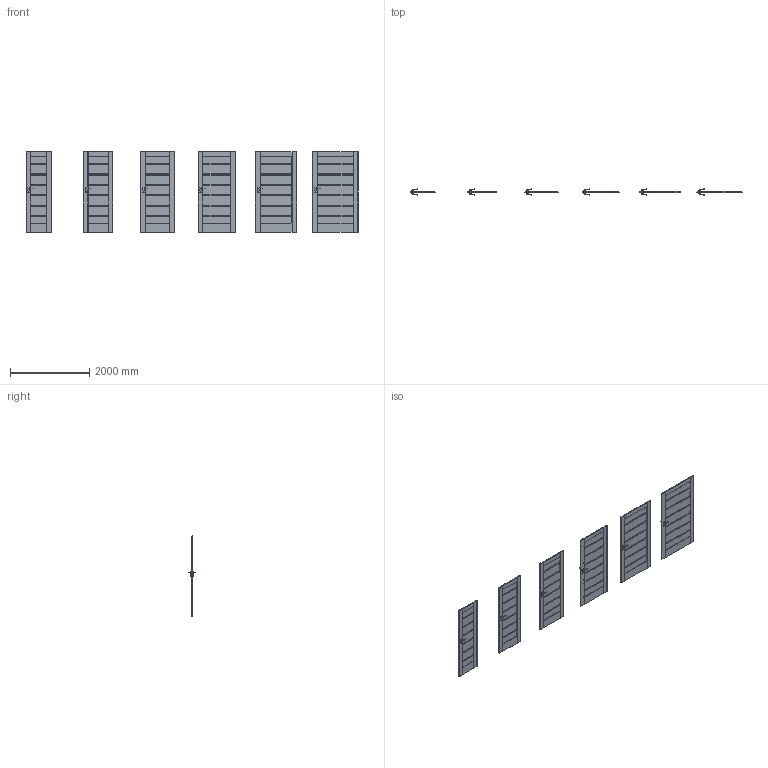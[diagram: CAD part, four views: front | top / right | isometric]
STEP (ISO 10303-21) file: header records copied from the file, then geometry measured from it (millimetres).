
FILE_DESCRIPTION(/* description */ (''),/* implementation_level */ '2;1');
FILE_NAME(/* name */ '049772_A_2-Skrzydło Verte Home model J_ polska norma _PN__ przylgowe..stp',/* time_stamp */ '2024-03-13T10:01:43+01:00',/* author */ (''),/* organization */ (''),/* preprocessor_version */ 'ST-DEVELOPER v16',/* originating_system */ 'SIEMENS PLM Software NX 11.0',/* authorisation */ '');
FILE_SCHEMA (('AUTOMOTIVE_DESIGN { 1 0 10303 214 3 1 1 1 }'));
Products named in the file (1): bkni33389E1Da3ib
Bounding box: 8394 x 153.27 x 2030.02 mm (x, y, z)
Volume: 230809690.6 mm3; surface area: 24296591.8 mm2
Topology: 30 solids, 30 shells, 1998 faces, 5258 edges, 3200 vertices
Faces by surface type: plane 1038, cylinder 588, bspline 204, sphere 168
Entity records: 67165 total; most frequent: CARTESIAN_POINT 19237, ORIENTED_EDGE 10180, DIRECTION 9644, EDGE_CURVE 5090, LINE 3270, VECTOR 3270, VERTEX_POINT 3200, AXIS2_PLACEMENT_3D 3187
